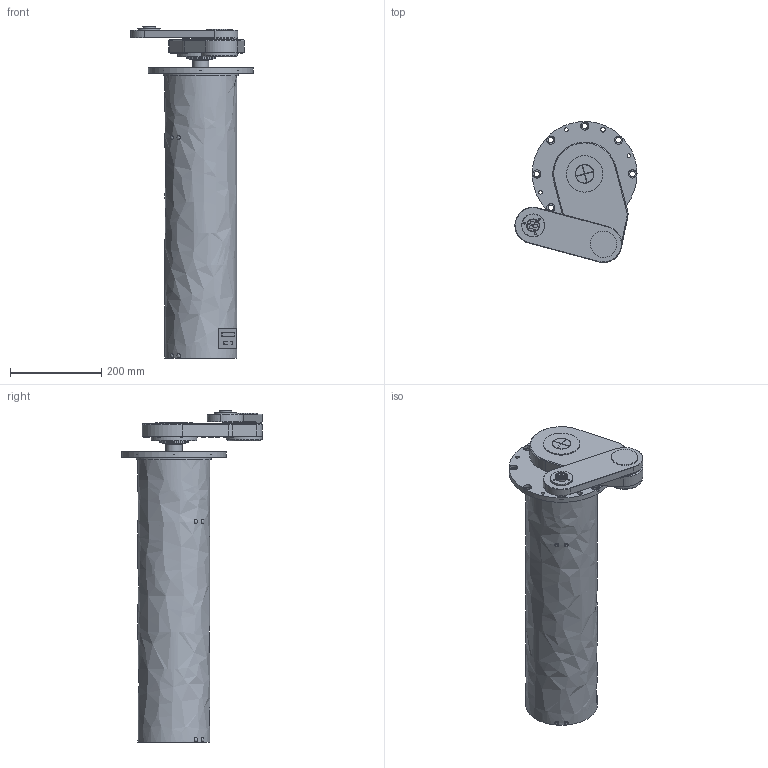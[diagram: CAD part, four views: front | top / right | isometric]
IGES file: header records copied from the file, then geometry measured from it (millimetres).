
Global section: file name: SVCR3160-020-PM-05617B; native system: Autodesk Inventor 2018; preprocessor: unknown; author: m-takamori; date: 20180405.144801; units: millimetre
Bounding box: 268.07 x 309.5 x 729 mm (x, y, z)
Volume: 14106276.2 mm3; surface area: 562963.6 mm2
Topology: 5 solids, 5 shells, 261 faces, 560 edges, 358 vertices
Faces by surface type: bspline 261
